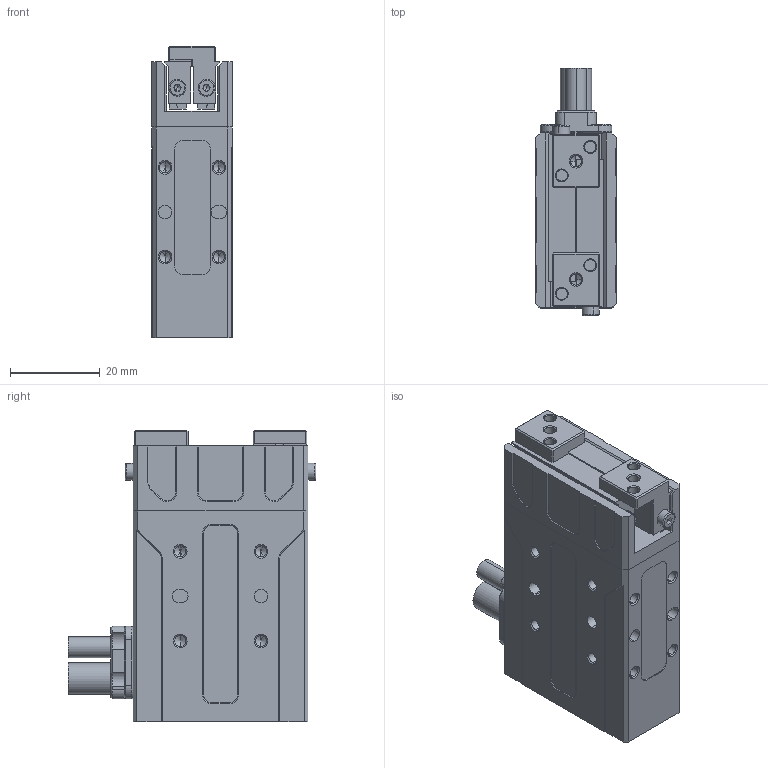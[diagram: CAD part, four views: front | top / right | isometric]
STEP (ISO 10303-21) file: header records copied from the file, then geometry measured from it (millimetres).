
FILE_DESCRIPTION (( 'STEP AP203' ), '1' );
FILE_NAME ('PGE2_A1潠趙耀倰.STEP', '2021-03-22T07:26:17', ( '' ), ( '' ), 'SwSTEP 2.0', 'SolidWorks 2016', '' );
FILE_SCHEMA (( 'CONFIG_CONTROL_DESIGN' ));
Length unit declared in the file: millimetre
Products named in the file (3): 忒硌; PGE2_A1潠趙耀倰; body
Assembly tree (3 placements, depth 2):
  PGE2_A1潠趙耀倰
    忒硌  x2
    body
Bounding box: 18 x 55.25 x 65 mm (x, y, z)
Volume: 40631 mm3; surface area: 18136.7 mm2
Topology: 10 solids, 20 shells, 1020 faces, 2491 edges, 1510 vertices
Faces by surface type: plane 476, cylinder 271, cone 263, torus 8, bspline 2
Entity records: 25957 total; most frequent: DIRECTION 4624, CARTESIAN_POINT 4486, ORIENTED_EDGE 4246, EDGE_CURVE 2123, AXIS2_PLACEMENT_3D 1645, VECTOR 1334, LINE 1334, VERTEX_POINT 1319
